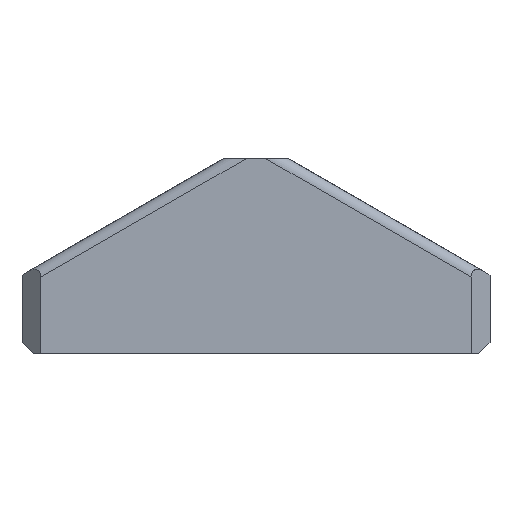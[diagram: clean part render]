
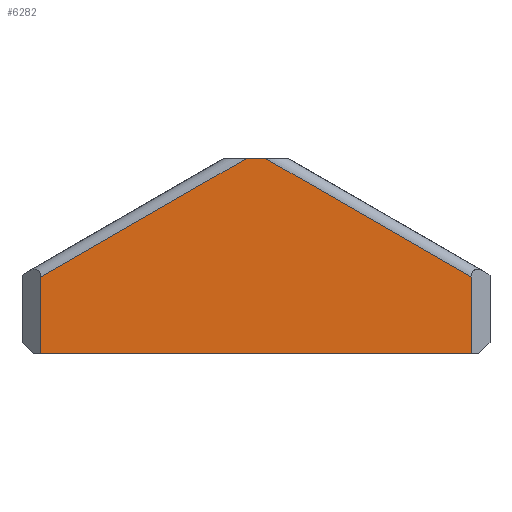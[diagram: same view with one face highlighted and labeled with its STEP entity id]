
A CAD part, front view. The second image highlights one B-rep face of the part: STEP entity #6282.
In plain terms, the highlighted planar face has unit normal (0, -1, 0).
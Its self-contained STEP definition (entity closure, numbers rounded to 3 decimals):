
#214 = EDGE_CURVE ( 'NONE', #7170, #6115, #2834, .T. ) ;
#327 = ORIENTED_EDGE ( 'NONE', *, *, #7405, .T. ) ;
#466 = DIRECTION ( 'NONE',  ( 0., 1., 0. ) ) ;
#573 = EDGE_CURVE ( 'NONE', #6386, #8737, #3250, .T. ) ;
#604 = CARTESIAN_POINT ( 'NONE',  ( -59.541, -239.933, 10.169 ) ) ;
#860 = ORIENTED_EDGE ( 'NONE', *, *, #573, .F. ) ;
#960 = VECTOR ( 'NONE', #9439, 1000. ) ;
#990 = CARTESIAN_POINT ( 'NONE',  ( -147.122, -239.933, 36.169 ) ) ;
#1286 = PLANE ( 'NONE',  #8811 ) ;
#1532 = FACE_OUTER_BOUND ( 'NONE', #2496, .T. ) ;
#1534 = CARTESIAN_POINT ( 'NONE',  ( -117.041, -239.933, 52. ) ) ;
#1872 = CARTESIAN_POINT ( 'NONE',  ( -59.541, -239.933, 20.338 ) ) ;
#1885 = DIRECTION ( 'NONE',  ( 0.866, 0., -0.5 ) ) ;
#2496 = EDGE_LOOP ( 'NONE', ( #3993, #327, #6625, #4956, #860, #8150 ) ) ;
#2555 = DIRECTION ( 'NONE',  ( -0.866, 0., -0.5 ) ) ;
#2565 = VECTOR ( 'NONE', #1885, 1000. ) ;
#2793 = CARTESIAN_POINT ( 'NONE',  ( -174.541, -239.933, 0. ) ) ;
#2834 = LINE ( 'NONE', #990, #8453 ) ;
#2869 = VERTEX_POINT ( 'NONE', #2793 ) ;
#2950 = LINE ( 'NONE', #604, #960 ) ;
#3250 = LINE ( 'NONE', #8557, #2565 ) ;
#3272 = CARTESIAN_POINT ( 'NONE',  ( -174.541, -239.933, 20.338 ) ) ;
#3481 = EDGE_CURVE ( 'NONE', #8741, #8737, #2950, .T. ) ;
#3591 = EDGE_CURVE ( 'NONE', #7170, #6386, #9377, .T. ) ;
#3705 = VECTOR ( 'NONE', #9193, 1000. ) ;
#3760 = CARTESIAN_POINT ( 'NONE',  ( -119.702, -239.933, 52. ) ) ;
#3993 = ORIENTED_EDGE ( 'NONE', *, *, #214, .T. ) ;
#4380 = EDGE_CURVE ( 'NONE', #2869, #8741, #7302, .T. ) ;
#4747 = DIRECTION ( 'NONE',  ( 1., 0., 0. ) ) ;
#4907 = CARTESIAN_POINT ( 'NONE',  ( -179.541, -239.933, 57. ) ) ;
#4956 = ORIENTED_EDGE ( 'NONE', *, *, #3481, .T. ) ;
#5009 = CARTESIAN_POINT ( 'NONE',  ( -114.381, -239.933, 52. ) ) ;
#5538 = CARTESIAN_POINT ( 'NONE',  ( -174.541, -239.933, 10.169 ) ) ;
#5631 = DIRECTION ( 'NONE',  ( 1., 0., 0. ) ) ;
#6110 = LINE ( 'NONE', #5538, #3705 ) ;
#6115 = VERTEX_POINT ( 'NONE', #3272 ) ;
#6282 = ADVANCED_FACE ( 'NONE', ( #1532 ), #1286, .F. ) ;
#6386 = VERTEX_POINT ( 'NONE', #5009 ) ;
#6388 = VECTOR ( 'NONE', #6701, 1000. ) ;
#6625 = ORIENTED_EDGE ( 'NONE', *, *, #4380, .T. ) ;
#6701 = DIRECTION ( 'NONE',  ( 1., 0., 0. ) ) ;
#7170 = VERTEX_POINT ( 'NONE', #3760 ) ;
#7302 = LINE ( 'NONE', #7713, #7520 ) ;
#7405 = EDGE_CURVE ( 'NONE', #6115, #2869, #6110, .T. ) ;
#7520 = VECTOR ( 'NONE', #4747, 1000. ) ;
#7713 = CARTESIAN_POINT ( 'NONE',  ( -117.041, -239.933, 0. ) ) ;
#7761 = CARTESIAN_POINT ( 'NONE',  ( -59.541, -239.933, 0. ) ) ;
#8150 = ORIENTED_EDGE ( 'NONE', *, *, #3591, .F. ) ;
#8453 = VECTOR ( 'NONE', #2555, 1000. ) ;
#8557 = CARTESIAN_POINT ( 'NONE',  ( -86.961, -239.933, 36.169 ) ) ;
#8737 = VERTEX_POINT ( 'NONE', #1872 ) ;
#8741 = VERTEX_POINT ( 'NONE', #7761 ) ;
#8811 = AXIS2_PLACEMENT_3D ( 'NONE', #4907, #466, #5631 ) ;
#9193 = DIRECTION ( 'NONE',  ( 0., 0., -1. ) ) ;
#9377 = LINE ( 'NONE', #1534, #6388 ) ;
#9439 = DIRECTION ( 'NONE',  ( 0., 0., 1. ) ) ;
